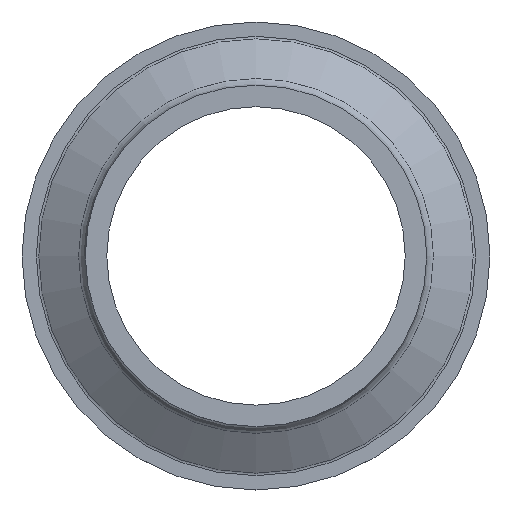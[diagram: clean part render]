
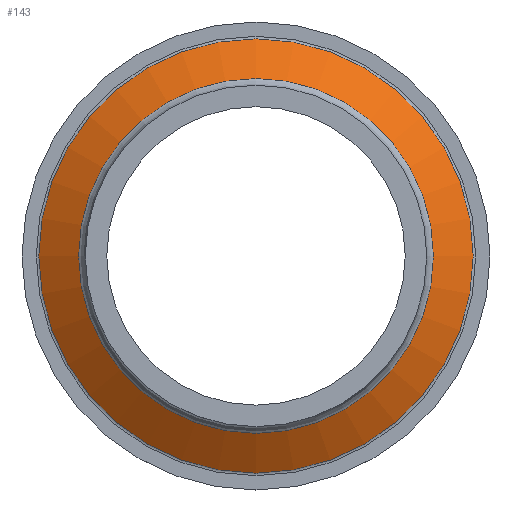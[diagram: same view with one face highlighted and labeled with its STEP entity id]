
A CAD part, top view. The second image highlights one B-rep face of the part: STEP entity #143.
In plain terms, the highlighted conical face has half-angle 57.452 degrees and reference radius 37.136 mm.
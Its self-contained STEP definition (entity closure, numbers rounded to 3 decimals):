
#98=CARTESIAN_POINT('',(45.462,0.,1.157));
#99=VERTEX_POINT('',#98);
#107=CARTESIAN_POINT('',(0.,0.,1.157));
#108=DIRECTION('',(1.,0.,0.));
#109=DIRECTION('',(0.,0.,1.));
#110=AXIS2_PLACEMENT_3D('',#107,#109,#108);
#111=CIRCLE('',#110,45.462);
#112=EDGE_CURVE('',#99,#99,#111,.T.);
#119=CARTESIAN_POINT('',(0.,0.,6.471));
#120=DIRECTION('',(1.,0.,0.));
#121=DIRECTION('',(-0.,-0.,-1.));
#122=AXIS2_PLACEMENT_3D('',#119,#121,#120);
#123=CONICAL_SURFACE('',#122,37.136,1.003);
#124=CARTESIAN_POINT('',(37.136,0.,6.471));
#125=VERTEX_POINT('',#124);
#126=CARTESIAN_POINT('',(45.462,0.,1.157));
#127=DIRECTION('',(-0.843,0.,0.538));
#128=VECTOR('',#127,9.877);
#129=LINE('',#126,#128);
#130=EDGE_CURVE('',#99,#125,#129,.T.);
#131=ORIENTED_EDGE('E3',*,*,#130,.T.);
#132=CARTESIAN_POINT('',(0.,0.,6.471));
#133=DIRECTION('',(1.,0.,0.));
#134=DIRECTION('',(0.,0.,1.));
#135=AXIS2_PLACEMENT_3D('',#132,#134,#133);
#136=CIRCLE('',#135,37.136);
#137=EDGE_CURVE('',#125,#125,#136,.T.);
#138=ORIENTED_EDGE('E12',*,*,#137,.T.);
#139=ORIENTED_EDGE('E12',*,*,#130,.F.);
#140=ORIENTED_EDGE('E12',*,*,#112,.F.);
#141=EDGE_LOOP('',(#131,#138,#139,#140));
#142=FACE_OUTER_BOUND('',#141,.F.);
#143=ADVANCED_FACE('F5',(#142),#123,.T.);
